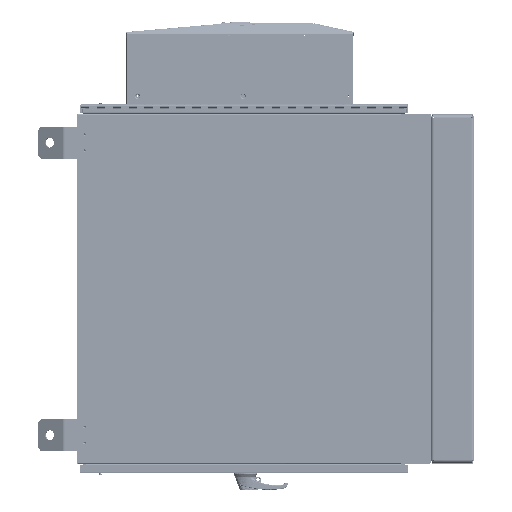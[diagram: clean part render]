
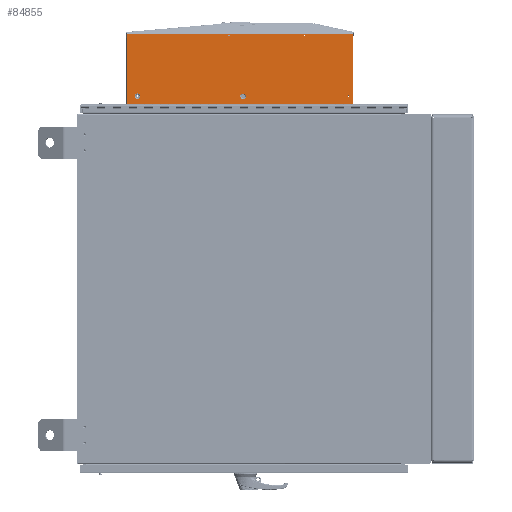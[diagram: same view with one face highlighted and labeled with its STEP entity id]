
A CAD part, left-side view. The second image highlights one B-rep face of the part: STEP entity #84855.
In plain terms, the highlighted planar face has unit normal (-1, 0, 0).
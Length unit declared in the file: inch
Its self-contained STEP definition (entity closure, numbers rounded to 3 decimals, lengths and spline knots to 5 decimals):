
#525 = CARTESIAN_POINT ( 'NONE',  ( -0.036, -14.222, -4.44 ) ) ;
#2370 = CARTESIAN_POINT ( 'NONE',  ( -0.036, -14.222, -4.44 ) ) ;
#5376 = DIRECTION ( 'NONE',  ( 0., 1., 0. ) ) ;
#8483 = CARTESIAN_POINT ( 'NONE',  ( -0.036, 14.192, 4.44 ) ) ;
#11741 = CIRCLE ( 'NONE', #317615, 0.35485 ) ;
#12132 = ORIENTED_EDGE ( 'NONE', *, *, #455127, .F. ) ;
#22902 = VECTOR ( 'NONE', #340676, 39.37008 ) ;
#36518 = CARTESIAN_POINT ( 'NONE',  ( -0.036, 14.192, 4.44 ) ) ;
#39851 = LINE ( 'NONE', #525, #146233 ) ;
#40760 = VECTOR ( 'NONE', #41367, 39.37008 ) ;
#41367 = DIRECTION ( 'NONE',  ( 0., 0., 1. ) ) ;
#47046 = VERTEX_POINT ( 'NONE', #282095 ) ;
#51147 = CARTESIAN_POINT ( 'NONE',  ( -0.036, -8.122, 4.21 ) ) ;
#58585 = AXIS2_PLACEMENT_3D ( 'NONE', #453651, #80202, #230001 ) ;
#64408 = AXIS2_PLACEMENT_3D ( 'NONE', #199092, #388332, #427632 ) ;
#65178 = EDGE_CURVE ( 'NONE', #258556, #181359, #458622, .T. ) ;
#78022 = CARTESIAN_POINT ( 'NONE',  ( -0.036, -0.392, -3.44 ) ) ;
#78268 = LINE ( 'NONE', #36518, #40760 ) ;
#79026 = DIRECTION ( 'NONE',  ( 1., 0., 0. ) ) ;
#80202 = DIRECTION ( 'NONE',  ( 1., 0., 0. ) ) ;
#82794 = VERTEX_POINT ( 'NONE', #139060 ) ;
#84855 = ADVANCED_FACE ( 'NONE', ( #409739, #109992, #372826, #331147, #186080, #328703 ), #436909, .F. ) ;
#97161 = EDGE_LOOP ( 'NONE', ( #220307, #336423 ) ) ;
#100298 = DIRECTION ( 'NONE',  ( 0., 0., -1. ) ) ;
#102732 = DIRECTION ( 'NONE',  ( 1., 0., 0. ) ) ;
#103087 = CARTESIAN_POINT ( 'NONE',  ( -0.036, -14.222, 4.42101 ) ) ;
#105103 = CARTESIAN_POINT ( 'NONE',  ( -0.036, 14.192, 4.42 ) ) ;
#105398 = CIRCLE ( 'NONE', #168149, 0.35485 ) ;
#107614 = DIRECTION ( 'NONE',  ( 1., 0., 0. ) ) ;
#109992 = FACE_BOUND ( 'NONE', #483235, .T. ) ;
#111391 = CARTESIAN_POINT ( 'NONE',  ( -0.036, -14.222, 4.42101 ) ) ;
#113088 = EDGE_LOOP ( 'NONE', ( #153285, #267106 ) ) ;
#115431 = CARTESIAN_POINT ( 'NONE',  ( -0.036, 13.21285, -3.44 ) ) ;
#119543 = LINE ( 'NONE', #142404, #22902 ) ;
#125137 = EDGE_CURVE ( 'NONE', #216282, #82794, #396839, .T. ) ;
#127161 = AXIS2_PLACEMENT_3D ( 'NONE', #165769, #470364, #133782 ) ;
#131631 = VERTEX_POINT ( 'NONE', #295841 ) ;
#133782 = DIRECTION ( 'NONE',  ( 0., 0., -1. ) ) ;
#139060 = CARTESIAN_POINT ( 'NONE',  ( -0.036, 1.378, 4.2805 ) ) ;
#142183 = DIRECTION ( 'NONE',  ( -1., 0., 0. ) ) ;
#142404 = CARTESIAN_POINT ( 'NONE',  ( -0.036, -14.222, -4.44 ) ) ;
#142955 = AXIS2_PLACEMENT_3D ( 'NONE', #51147, #191322, #269945 ) ;
#146233 = VECTOR ( 'NONE', #5376, 39.37008 ) ;
#147162 = LINE ( 'NONE', #103087, #340305 ) ;
#151144 = DIRECTION ( 'NONE',  ( 1., 0., 0. ) ) ;
#153285 = ORIENTED_EDGE ( 'NONE', *, *, #407306, .T. ) ;
#155123 = CARTESIAN_POINT ( 'NONE',  ( -0.036, -0.392, -3.44 ) ) ;
#165769 = CARTESIAN_POINT ( 'NONE',  ( -0.036, -13.642, -3.44 ) ) ;
#168149 = AXIS2_PLACEMENT_3D ( 'NONE', #155123, #79026, #309811 ) ;
#169202 = VECTOR ( 'NONE', #396496, 39.37008 ) ;
#173719 = VERTEX_POINT ( 'NONE', #395204 ) ;
#174631 = CARTESIAN_POINT ( 'NONE',  ( -0.036, 1.378, 4.1395 ) ) ;
#179185 = CARTESIAN_POINT ( 'NONE',  ( -0.036, -13.642, -3.3305 ) ) ;
#181359 = VERTEX_POINT ( 'NONE', #348971 ) ;
#186080 = FACE_BOUND ( 'NONE', #113088, .T. ) ;
#187891 = ORIENTED_EDGE ( 'NONE', *, *, #418407, .F. ) ;
#189102 = ORIENTED_EDGE ( 'NONE', *, *, #463610, .T. ) ;
#191322 = DIRECTION ( 'NONE',  ( -1., 0., 0. ) ) ;
#199092 = CARTESIAN_POINT ( 'NONE',  ( -0.036, -13.642, -3.44 ) ) ;
#216282 = VERTEX_POINT ( 'NONE', #174631 ) ;
#220307 = ORIENTED_EDGE ( 'NONE', *, *, #65178, .T. ) ;
#221203 = CARTESIAN_POINT ( 'NONE',  ( -0.036, -8.122, 4.1395 ) ) ;
#223131 = CIRCLE ( 'NONE', #348766, 0.0705 ) ;
#226057 = VERTEX_POINT ( 'NONE', #111391 ) ;
#230001 = DIRECTION ( 'NONE',  ( 0., 1., 0. ) ) ;
#231542 = AXIS2_PLACEMENT_3D ( 'NONE', #425847, #460305, #388978 ) ;
#232991 = ORIENTED_EDGE ( 'NONE', *, *, #125137, .F. ) ;
#236930 = CIRCLE ( 'NONE', #64408, 0.1095 ) ;
#237550 = ORIENTED_EDGE ( 'NONE', *, *, #243579, .T. ) ;
#242345 = EDGE_CURVE ( 'NONE', #383836, #461465, #78268, .T. ) ;
#243579 = EDGE_CURVE ( 'NONE', #226057, #131631, #147162, .T. ) ;
#249766 = ORIENTED_EDGE ( 'NONE', *, *, #286679, .F. ) ;
#250393 = EDGE_CURVE ( 'NONE', #226057, #364524, #119543, .T. ) ;
#256650 = ORIENTED_EDGE ( 'NONE', *, *, #242345, .F. ) ;
#258556 = VERTEX_POINT ( 'NONE', #115431 ) ;
#259825 = CARTESIAN_POINT ( 'NONE',  ( -0.036, 14.222, -4.44 ) ) ;
#262683 = CIRCLE ( 'NONE', #58585, 0.35485 ) ;
#267106 = ORIENTED_EDGE ( 'NONE', *, *, #454724, .T. ) ;
#269411 = CARTESIAN_POINT ( 'NONE',  ( -0.036, 14.192, -4.44 ) ) ;
#269945 = DIRECTION ( 'NONE',  ( 0., 0., 1. ) ) ;
#282095 = CARTESIAN_POINT ( 'NONE',  ( -0.036, -0.74685, -3.44 ) ) ;
#284894 = EDGE_CURVE ( 'NONE', #181359, #258556, #262683, .T. ) ;
#286679 = EDGE_CURVE ( 'NONE', #364524, #383836, #39851, .T. ) ;
#295841 = CARTESIAN_POINT ( 'NONE',  ( -0.036, 14.192, 4.42101 ) ) ;
#298624 = DIRECTION ( 'NONE',  ( 0., 1., 0. ) ) ;
#304025 = DIRECTION ( 'NONE',  ( 0., 1., 0. ) ) ;
#308977 = EDGE_CURVE ( 'NONE', #414378, #47046, #11741, .T. ) ;
#309811 = DIRECTION ( 'NONE',  ( 0., 1., 0. ) ) ;
#317615 = AXIS2_PLACEMENT_3D ( 'NONE', #78022, #107614, #304025 ) ;
#320972 = VERTEX_POINT ( 'NONE', #443503 ) ;
#321874 = EDGE_LOOP ( 'NONE', ( #339923, #189102 ) ) ;
#322009 = ORIENTED_EDGE ( 'NONE', *, *, #250393, .F. ) ;
#325558 = CIRCLE ( 'NONE', #231542, 0.0705 ) ;
#328703 = FACE_BOUND ( 'NONE', #97161, .T. ) ;
#331147 = FACE_OUTER_BOUND ( 'NONE', #412972, .T. ) ;
#333768 = AXIS2_PLACEMENT_3D ( 'NONE', #259825, #102732, #100298 ) ;
#335495 = CARTESIAN_POINT ( 'NONE',  ( -0.036, 12.858, -3.44 ) ) ;
#336423 = ORIENTED_EDGE ( 'NONE', *, *, #284894, .T. ) ;
#339923 = ORIENTED_EDGE ( 'NONE', *, *, #308977, .T. ) ;
#340305 = VECTOR ( 'NONE', #407668, 39.37008 ) ;
#340676 = DIRECTION ( 'NONE',  ( 0., 0., -1. ) ) ;
#345157 = LINE ( 'NONE', #8483, #169202 ) ;
#348766 = AXIS2_PLACEMENT_3D ( 'NONE', #472916, #391964, #352686 ) ;
#348971 = CARTESIAN_POINT ( 'NONE',  ( -0.036, 12.50315, -3.44 ) ) ;
#352686 = DIRECTION ( 'NONE',  ( 0., 0., 1. ) ) ;
#357920 = AXIS2_PLACEMENT_3D ( 'NONE', #478772, #142183, #441915 ) ;
#364524 = VERTEX_POINT ( 'NONE', #2370 ) ;
#371051 = VERTEX_POINT ( 'NONE', #221203 ) ;
#372826 = FACE_BOUND ( 'NONE', #321874, .T. ) ;
#378307 = CIRCLE ( 'NONE', #127161, 0.1095 ) ;
#383836 = VERTEX_POINT ( 'NONE', #269411 ) ;
#386322 = EDGE_CURVE ( 'NONE', #371051, #173719, #325558, .T. ) ;
#388025 = EDGE_LOOP ( 'NONE', ( #12132, #394521 ) ) ;
#388332 = DIRECTION ( 'NONE',  ( 1., 0., 0. ) ) ;
#388978 = DIRECTION ( 'NONE',  ( 0., 0., 1. ) ) ;
#389150 = EDGE_CURVE ( 'NONE', #461465, #131631, #345157, .T. ) ;
#391964 = DIRECTION ( 'NONE',  ( -1., 0., 0. ) ) ;
#394521 = ORIENTED_EDGE ( 'NONE', *, *, #386322, .F. ) ;
#395204 = CARTESIAN_POINT ( 'NONE',  ( -0.036, -8.122, 4.2805 ) ) ;
#396496 = DIRECTION ( 'NONE',  ( 0., 0., 1. ) ) ;
#396650 = VERTEX_POINT ( 'NONE', #179185 ) ;
#396839 = CIRCLE ( 'NONE', #357920, 0.0705 ) ;
#407306 = EDGE_CURVE ( 'NONE', #396650, #320972, #378307, .T. ) ;
#407668 = DIRECTION ( 'NONE',  ( 0., 1., 0. ) ) ;
#409739 = FACE_BOUND ( 'NONE', #388025, .T. ) ;
#412972 = EDGE_LOOP ( 'NONE', ( #256650, #249766, #322009, #237550, #464764 ) ) ;
#414378 = VERTEX_POINT ( 'NONE', #480028 ) ;
#418407 = EDGE_CURVE ( 'NONE', #82794, #216282, #223131, .T. ) ;
#419407 = AXIS2_PLACEMENT_3D ( 'NONE', #335495, #151144, #298624 ) ;
#425847 = CARTESIAN_POINT ( 'NONE',  ( -0.036, -8.122, 4.21 ) ) ;
#427632 = DIRECTION ( 'NONE',  ( 0., 0., -1. ) ) ;
#436909 = PLANE ( 'NONE',  #333768 ) ;
#441915 = DIRECTION ( 'NONE',  ( 0., 0., 1. ) ) ;
#443503 = CARTESIAN_POINT ( 'NONE',  ( -0.036, -13.642, -3.5495 ) ) ;
#453651 = CARTESIAN_POINT ( 'NONE',  ( -0.036, 12.858, -3.44 ) ) ;
#454724 = EDGE_CURVE ( 'NONE', #320972, #396650, #236930, .T. ) ;
#455127 = EDGE_CURVE ( 'NONE', #173719, #371051, #472667, .T. ) ;
#458622 = CIRCLE ( 'NONE', #419407, 0.35485 ) ;
#460305 = DIRECTION ( 'NONE',  ( -1., 0., 0. ) ) ;
#461465 = VERTEX_POINT ( 'NONE', #105103 ) ;
#463610 = EDGE_CURVE ( 'NONE', #47046, #414378, #105398, .T. ) ;
#464764 = ORIENTED_EDGE ( 'NONE', *, *, #389150, .F. ) ;
#470364 = DIRECTION ( 'NONE',  ( 1., 0., 0. ) ) ;
#472667 = CIRCLE ( 'NONE', #142955, 0.0705 ) ;
#472916 = CARTESIAN_POINT ( 'NONE',  ( -0.036, 1.378, 4.21 ) ) ;
#478772 = CARTESIAN_POINT ( 'NONE',  ( -0.036, 1.378, 4.21 ) ) ;
#480028 = CARTESIAN_POINT ( 'NONE',  ( -0.036, -0.03715, -3.44 ) ) ;
#483235 = EDGE_LOOP ( 'NONE', ( #187891, #232991 ) ) ;
